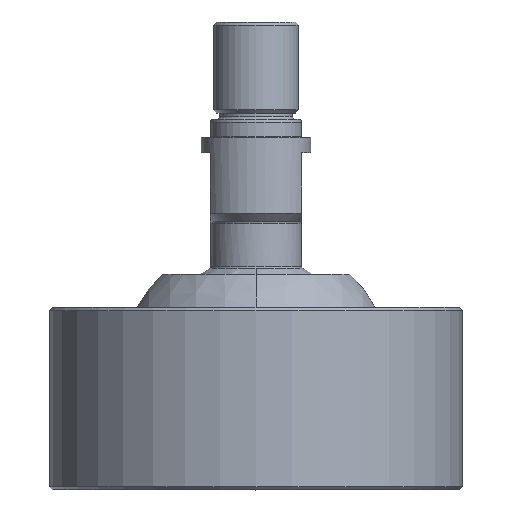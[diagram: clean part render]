
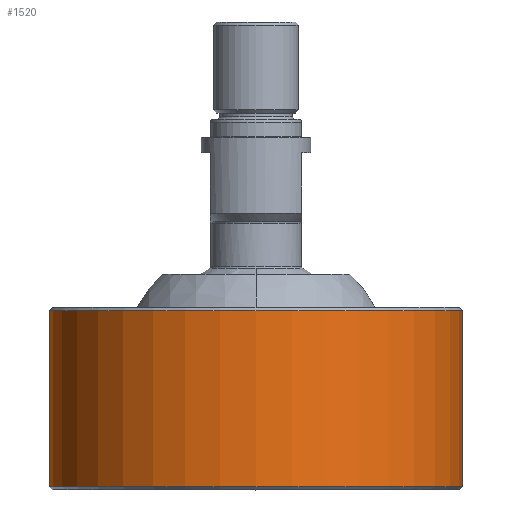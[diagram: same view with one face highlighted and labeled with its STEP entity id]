
A CAD part, front view. The second image highlights one B-rep face of the part: STEP entity #1520.
In plain terms, the highlighted cylindrical face has radius 68 mm (diameter 136 mm), a partial arc.
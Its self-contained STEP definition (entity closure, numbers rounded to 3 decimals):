
#121 = CARTESIAN_POINT ( 'NONE',  ( 0., 0., -37. ) ) ;
#329 = CIRCLE ( 'NONE', #8708, 68. ) ;
#1219 = ORIENTED_EDGE ( 'NONE', *, *, #3905, .F. ) ;
#1318 = ORIENTED_EDGE ( 'NONE', *, *, #2775, .T. ) ;
#1520 = ADVANCED_FACE ( 'NONE', ( #2438 ), #4064, .T. ) ;
#2033 = CARTESIAN_POINT ( 'NONE',  ( 68., 0., 22. ) ) ;
#2084 = VECTOR ( 'NONE', #7386, 1000. ) ;
#2345 = DIRECTION ( 'NONE',  ( -1., 0., 0. ) ) ;
#2438 = FACE_OUTER_BOUND ( 'NONE', #5822, .T. ) ;
#2532 = DIRECTION ( 'NONE',  ( -1., 0., 0. ) ) ;
#2775 = EDGE_CURVE ( 'NONE', #5194, #5312, #329, .T. ) ;
#2958 = CIRCLE ( 'NONE', #3900, 68. ) ;
#3089 = DIRECTION ( 'NONE',  ( 0., 0., 1. ) ) ;
#3389 = CARTESIAN_POINT ( 'NONE',  ( 68., 0., -37. ) ) ;
#3423 = LINE ( 'NONE', #2033, #8462 ) ;
#3468 = ORIENTED_EDGE ( 'NONE', *, *, #8306, .T. ) ;
#3635 = CARTESIAN_POINT ( 'NONE',  ( 68., 0., 21. ) ) ;
#3900 = AXIS2_PLACEMENT_3D ( 'NONE', #121, #3089, #2345 ) ;
#3905 = EDGE_CURVE ( 'NONE', #5194, #5436, #3423, .T. ) ;
#4064 = CYLINDRICAL_SURFACE ( 'NONE', #7956, 68. ) ;
#4073 = CARTESIAN_POINT ( 'NONE',  ( -68., 0., 21. ) ) ;
#5194 = VERTEX_POINT ( 'NONE', #3635 ) ;
#5312 = VERTEX_POINT ( 'NONE', #4073 ) ;
#5436 = VERTEX_POINT ( 'NONE', #3389 ) ;
#5755 = LINE ( 'NONE', #6592, #2084 ) ;
#5822 = EDGE_LOOP ( 'NONE', ( #1219, #1318, #3468, #9371 ) ) ;
#5932 = DIRECTION ( 'NONE',  ( 0., 0., -1. ) ) ;
#6198 = EDGE_CURVE ( 'NONE', #9143, #5436, #2958, .T. ) ;
#6592 = CARTESIAN_POINT ( 'NONE',  ( -68., 0., 22. ) ) ;
#6635 = DIRECTION ( 'NONE',  ( 0., 0., -1. ) ) ;
#6991 = CARTESIAN_POINT ( 'NONE',  ( 0., 0., 22. ) ) ;
#7386 = DIRECTION ( 'NONE',  ( 0., 0., -1. ) ) ;
#7956 = AXIS2_PLACEMENT_3D ( 'NONE', #6991, #8573, #2532 ) ;
#8302 = CARTESIAN_POINT ( 'NONE',  ( -68., 0., -37. ) ) ;
#8306 = EDGE_CURVE ( 'NONE', #5312, #9143, #5755, .T. ) ;
#8462 = VECTOR ( 'NONE', #6635, 1000. ) ;
#8573 = DIRECTION ( 'NONE',  ( 0., 0., -1. ) ) ;
#8708 = AXIS2_PLACEMENT_3D ( 'NONE', #8849, #5932, #8900 ) ;
#8849 = CARTESIAN_POINT ( 'NONE',  ( 0., 0., 21. ) ) ;
#8900 = DIRECTION ( 'NONE',  ( -1., 0., 0. ) ) ;
#9143 = VERTEX_POINT ( 'NONE', #8302 ) ;
#9371 = ORIENTED_EDGE ( 'NONE', *, *, #6198, .T. ) ;
